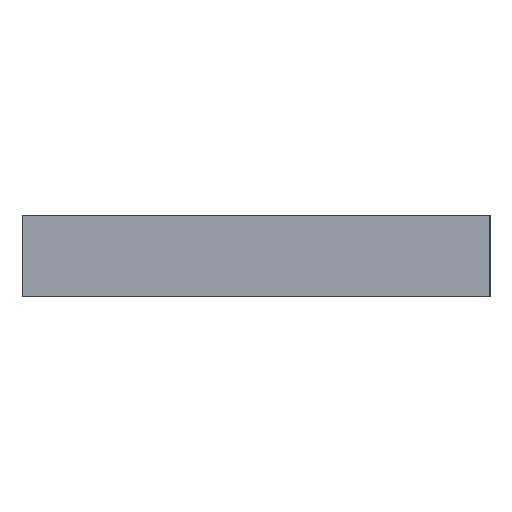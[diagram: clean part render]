
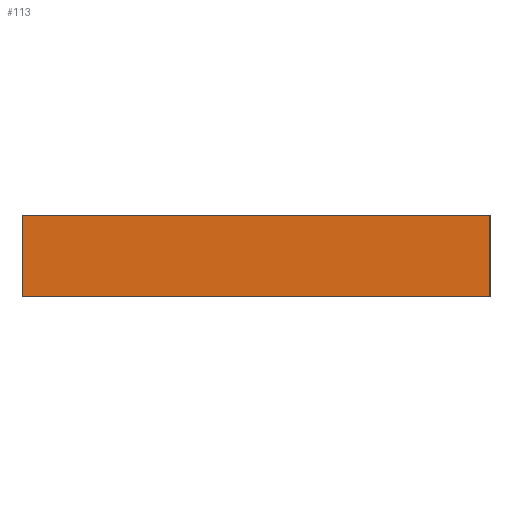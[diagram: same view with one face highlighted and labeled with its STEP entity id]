
A CAD part, left-side view. The second image highlights one B-rep face of the part: STEP entity #113.
In plain terms, the highlighted planar face has unit normal (-1, 0, 0).
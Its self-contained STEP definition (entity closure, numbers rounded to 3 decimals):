
#113=ADVANCED_FACE('',(#177),#1243,.T.);
#177=FACE_OUTER_BOUND('',#271,.T.);
#271=EDGE_LOOP('',(#555,#556,#557,#558));
#555=ORIENTED_EDGE('',*,*,#764,.T.);
#556=ORIENTED_EDGE('',*,*,#765,.T.);
#557=ORIENTED_EDGE('',*,*,#766,.F.);
#558=ORIENTED_EDGE('',*,*,#762,.F.);
#762=EDGE_CURVE('',#1159,#1160,#1060,.T.);
#764=EDGE_CURVE('',#1159,#1161,#1062,.T.);
#765=EDGE_CURVE('',#1161,#1162,#1063,.T.);
#766=EDGE_CURVE('',#1160,#1162,#1064,.T.);
#1060=B_SPLINE_CURVE_WITH_KNOTS('',1,(#2270,#2271),.UNSPECIFIED.,.F.,.F.,
(2,2),(0.,4.),.UNSPECIFIED.);
#1062=B_SPLINE_CURVE_WITH_KNOTS('',1,(#2274,#2275),.UNSPECIFIED.,.F.,.F.,
(2,2),(6.,9.),.UNSPECIFIED.);
#1063=B_SPLINE_CURVE_WITH_KNOTS('',1,(#2276,#2277),.UNSPECIFIED.,.F.,.F.,
(2,2),(0.,4.),.UNSPECIFIED.);
#1064=B_SPLINE_CURVE_WITH_KNOTS('',1,(#2278,#2279),.UNSPECIFIED.,.F.,.F.,
(2,2),(6.,9.),.UNSPECIFIED.);
#1159=VERTEX_POINT('',#2236);
#1160=VERTEX_POINT('',#2237);
#1161=VERTEX_POINT('',#2238);
#1162=VERTEX_POINT('',#2239);
#1243=PLANE('',#1445);
#1445=AXIS2_PLACEMENT_3D('',#2218,#1673,$);
#1673=DIRECTION('',(-1.,0.,0.));
#2218=CARTESIAN_POINT('',(772.16,25.796,10.));
#2236=CARTESIAN_POINT('',(772.16,25.796,10.));
#2237=CARTESIAN_POINT('',(772.16,25.796,14.));
#2238=CARTESIAN_POINT('',(772.16,2.796,10.));
#2239=CARTESIAN_POINT('',(772.16,2.796,14.));
#2270=CARTESIAN_POINT('',(772.16,25.796,10.));
#2271=CARTESIAN_POINT('',(772.16,25.796,14.));
#2274=CARTESIAN_POINT('',(772.16,25.796,10.));
#2275=CARTESIAN_POINT('',(772.16,2.796,10.));
#2276=CARTESIAN_POINT('',(772.16,2.796,10.));
#2277=CARTESIAN_POINT('',(772.16,2.796,14.));
#2278=CARTESIAN_POINT('',(772.16,25.796,14.));
#2279=CARTESIAN_POINT('',(772.16,2.796,14.));
